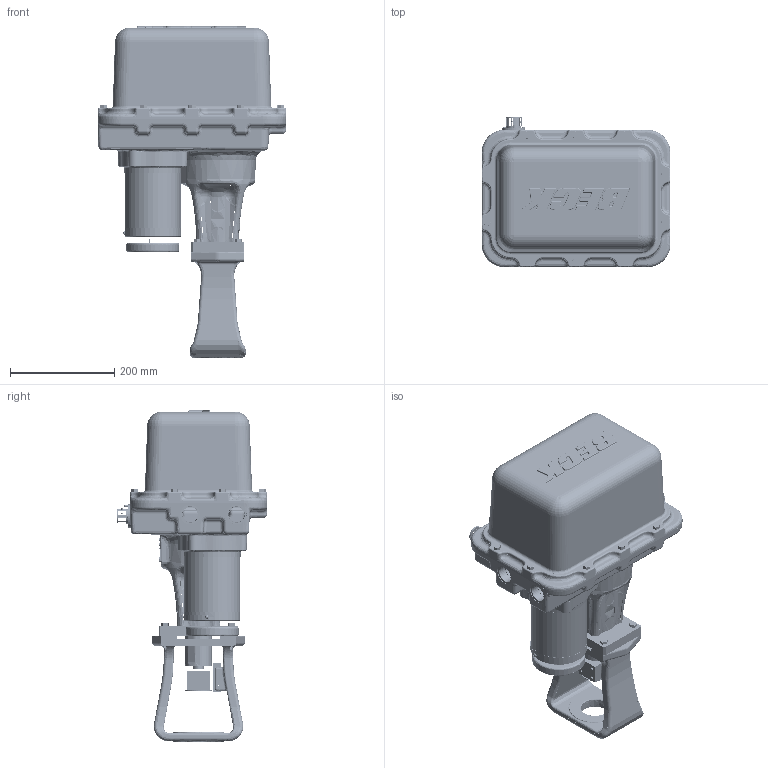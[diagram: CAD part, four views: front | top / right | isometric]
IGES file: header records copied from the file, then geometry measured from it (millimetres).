
Start section: SolidWorks IGES file using analytic representation for surfaces
Global section: file name: N:\Engineering\Product Support\Outline Dimension Models\29-100\IGES+STEP\18-2910-01.IGS; native system: SolidWorks 2009; preprocessor: SolidWorks 2009; author: jmack; date: 110624.115150; units: inch
Bounding box: 361.73 x 288.11 x 635.63 mm (x, y, z)
Surface area: 857525.5 mm2 (no closed solid volume)
Topology: 0 solids, 0 shells, 2149 faces, 38697 edges, 38605 vertices
Faces by surface type: bspline 1239, revolution 910
